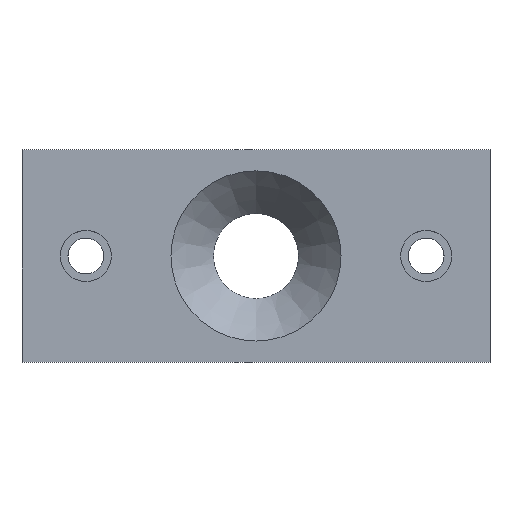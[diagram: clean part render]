
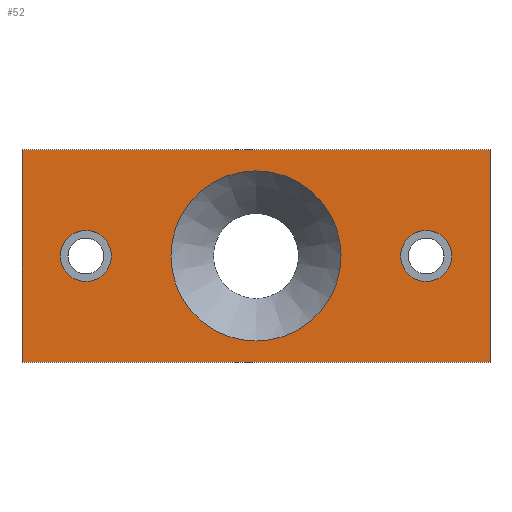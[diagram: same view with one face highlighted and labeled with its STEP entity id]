
A CAD part, top view. The second image highlights one B-rep face of the part: STEP entity #52.
In plain terms, the highlighted planar face has unit normal (0, 0, 1).
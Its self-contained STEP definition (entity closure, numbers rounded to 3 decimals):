
#52 = ADVANCED_FACE( '', ( #109, #110, #111, #112 ), #113, .T. );
#109 = FACE_BOUND( '', #172, .T. );
#110 = FACE_BOUND( '', #173, .T. );
#111 = FACE_OUTER_BOUND( '', #174, .T. );
#112 = FACE_BOUND( '', #175, .T. );
#113 = PLANE( '', #176 );
#172 = EDGE_LOOP( '', ( #249 ) );
#173 = EDGE_LOOP( '', ( #250 ) );
#174 = EDGE_LOOP( '', ( #251, #252, #253, #254 ) );
#175 = EDGE_LOOP( '', ( #255 ) );
#176 = AXIS2_PLACEMENT_3D( '', #256, #257, #258 );
#249 = ORIENTED_EDGE( '', *, *, #323, .T. );
#250 = ORIENTED_EDGE( '', *, *, #327, .T. );
#251 = ORIENTED_EDGE( '', *, *, #328, .T. );
#252 = ORIENTED_EDGE( '', *, *, #314, .T. );
#253 = ORIENTED_EDGE( '', *, *, #310, .T. );
#254 = ORIENTED_EDGE( '', *, *, #329, .T. );
#255 = ORIENTED_EDGE( '', *, *, #325, .T. );
#256 = CARTESIAN_POINT( '', ( 0., 0., 6. ) );
#257 = DIRECTION( '', ( 0., 0., 1. ) );
#258 = DIRECTION( '', ( 1., 0., 0. ) );
#310 = EDGE_CURVE( '', #352, #350, #353, .T. );
#314 = EDGE_CURVE( '', #358, #352, #359, .T. );
#323 = EDGE_CURVE( '', #372, #372, #373, .T. );
#325 = EDGE_CURVE( '', #375, #375, #376, .T. );
#327 = EDGE_CURVE( '', #378, #378, #379, .T. );
#328 = EDGE_CURVE( '', #380, #358, #381, .T. );
#329 = EDGE_CURVE( '', #350, #380, #382, .T. );
#350 = VERTEX_POINT( '', #407 );
#352 = VERTEX_POINT( '', #410 );
#353 = LINE( '', #411, #412 );
#358 = VERTEX_POINT( '', #419 );
#359 = LINE( '', #420, #421 );
#372 = VERTEX_POINT( '', #435 );
#373 = CIRCLE( '', #436, 10. );
#375 = VERTEX_POINT( '', #438 );
#376 = CIRCLE( '', #439, 3. );
#378 = VERTEX_POINT( '', #441 );
#379 = CIRCLE( '', #442, 3. );
#380 = VERTEX_POINT( '', #443 );
#381 = LINE( '', #444, #445 );
#382 = LINE( '', #446, #447 );
#407 = CARTESIAN_POINT( '', ( 55., 25., 6. ) );
#410 = CARTESIAN_POINT( '', ( 55., 0., 6. ) );
#411 = CARTESIAN_POINT( '', ( 55., 0., 6. ) );
#412 = VECTOR( '', #473, 1000. );
#419 = CARTESIAN_POINT( '', ( 0., 0., 6. ) );
#420 = CARTESIAN_POINT( '', ( 0., 0., 6. ) );
#421 = VECTOR( '', #476, 1000. );
#435 = CARTESIAN_POINT( '', ( 27.5, 22.5, 6. ) );
#436 = AXIS2_PLACEMENT_3D( '', #490, #491, #492 );
#438 = CARTESIAN_POINT( '', ( 50.5, 12.5, 6. ) );
#439 = AXIS2_PLACEMENT_3D( '', #493, #494, #495 );
#441 = CARTESIAN_POINT( '', ( 10.5, 12.5, 6. ) );
#442 = AXIS2_PLACEMENT_3D( '', #496, #497, #498 );
#443 = CARTESIAN_POINT( '', ( 0., 25., 6. ) );
#444 = CARTESIAN_POINT( '', ( 0., 25., 6. ) );
#445 = VECTOR( '', #499, 1000. );
#446 = CARTESIAN_POINT( '', ( 55., 25., 6. ) );
#447 = VECTOR( '', #500, 1000. );
#473 = DIRECTION( '', ( 0., 1., 0. ) );
#476 = DIRECTION( '', ( 1., 0., 0. ) );
#490 = CARTESIAN_POINT( '', ( 27.5, 12.5, 6. ) );
#491 = DIRECTION( '', ( 0., 0., -1. ) );
#492 = DIRECTION( '', ( 0., 1., 0. ) );
#493 = CARTESIAN_POINT( '', ( 47.5, 12.5, 6. ) );
#494 = DIRECTION( '', ( 0., 0., -1. ) );
#495 = DIRECTION( '', ( 1., 0., 0. ) );
#496 = CARTESIAN_POINT( '', ( 7.5, 12.5, 6. ) );
#497 = DIRECTION( '', ( 0., 0., -1. ) );
#498 = DIRECTION( '', ( 1., 0., 0. ) );
#499 = DIRECTION( '', ( 0., -1., 0. ) );
#500 = DIRECTION( '', ( -1., 0., 0. ) );
